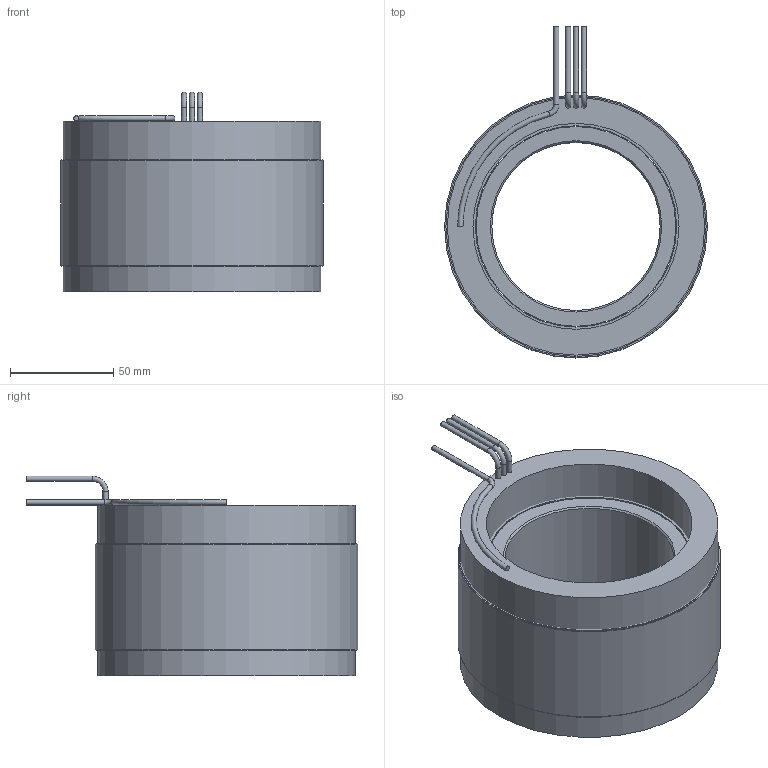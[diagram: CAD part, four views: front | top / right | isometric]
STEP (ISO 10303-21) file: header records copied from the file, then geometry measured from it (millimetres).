
FILE_DESCRIPTION (( 'STEP AP214' ), '1' );
FILE_NAME ('6100398-04.STEP', '2020-12-27T03:07:22', ( '' ), ( '' ), 'SwSTEP 2.0', 'SolidWorks 2016', '' );
FILE_SCHEMA (( 'AUTOMOTIVE_DESIGN' ));
Length unit declared in the file: inch
Products named in the file (10): 6100398-04; 4400106-00; 4450194-XX_4450194-04; 4600570-00; 4250386-XX_4250386-04; 4150184-XX_4150184-04; COMP4500563-XX(COIL)_COMP4500563-04(COIL); 4500563-XX_4500563-04
Assembly tree (10 placements, depth 4):
  6100398-04
    4250386-XX_4250386-04
      4150184-XX_4150184-04
    4500563-XX_4500563-04
      COMP4500563-XX(COIL)_COMP4500563-04(COIL)
      4450194-XX_4450194-04
        4450194-XX_4450194-04
        4400106-00
        4400106-00
        4600570-00  x2
Bounding box: 127 x 160.29 x 96.52 mm (x, y, z)
Volume: 739312 mm3; surface area: 188862.8 mm2
Topology: 8 solids, 8 shells, 47 faces, 74 edges, 46 vertices
Faces by surface type: cylinder 21, plane 19, torus 5, cone 2
Full cylindrical faces by diameter (mm): 2.54 x7, 81.28 x1, 96.52 x1, 97.282 x5, 99.568 x1, 124.46 x1, 125.73 x2, 127 x3
Entity records: 1305 total; most frequent: DIRECTION 202, CARTESIAN_POINT 143, AXIS2_PLACEMENT_3D 101, EDGE_LOOP 84, ORIENTED_EDGE 84, FACE_OUTER_BOUND 67, ADVANCED_FACE 43, EDGE_CURVE 42
